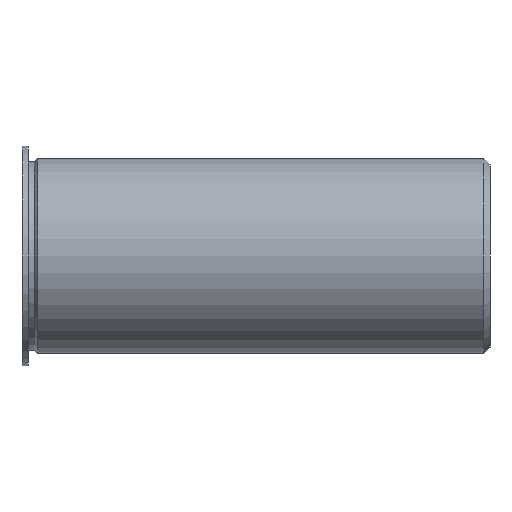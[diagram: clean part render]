
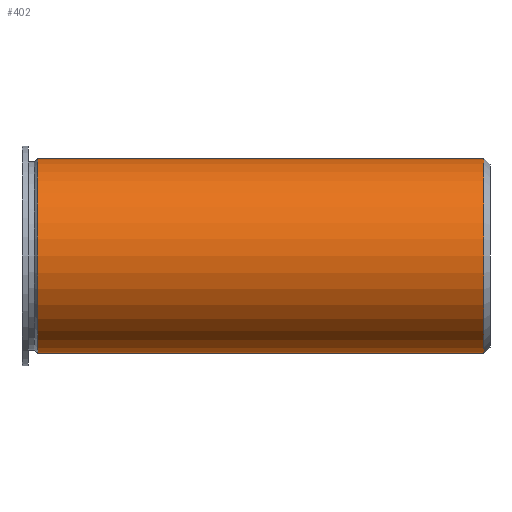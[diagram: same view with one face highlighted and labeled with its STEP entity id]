
A CAD part, front view. The second image highlights one B-rep face of the part: STEP entity #402.
In plain terms, the highlighted cylindrical face has radius 3.969 mm (diameter 7.938 mm), a partial arc.
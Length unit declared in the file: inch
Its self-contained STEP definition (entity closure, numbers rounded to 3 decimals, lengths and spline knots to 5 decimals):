
#24 = FACE_OUTER_BOUND ( 'NONE', #160, .T. ) ;
#41 = VECTOR ( 'NONE', #360, 39.37008 ) ;
#93 = LINE ( 'NONE', #427, #174 ) ;
#94 = VERTEX_POINT ( 'NONE', #170 ) ;
#111 = CIRCLE ( 'NONE', #539, 0.15625 ) ;
#115 = CARTESIAN_POINT ( 'NONE',  ( -1.78524, 3.72648, 0. ) ) ;
#120 = DIRECTION ( 'NONE',  ( 0., 0., 1. ) ) ;
#135 = CIRCLE ( 'NONE', #569, 0.15625 ) ;
#146 = LINE ( 'NONE', #412, #41 ) ;
#160 = EDGE_LOOP ( 'NONE', ( #224, #240, #185, #375 ) ) ;
#170 = CARTESIAN_POINT ( 'NONE',  ( -1.78524, 3.72648, -0.15625 ) ) ;
#174 = VECTOR ( 'NONE', #510, 39.37008 ) ;
#185 = ORIENTED_EDGE ( 'NONE', *, *, #298, .T. ) ;
#199 = CYLINDRICAL_SURFACE ( 'NONE', #506, 0.15625 ) ;
#215 = CARTESIAN_POINT ( 'NONE',  ( -2.50024, 3.72648, 0. ) ) ;
#217 = EDGE_CURVE ( 'NONE', #94, #554, #93, .T. ) ;
#224 = ORIENTED_EDGE ( 'NONE', *, *, #217, .F. ) ;
#240 = ORIENTED_EDGE ( 'NONE', *, *, #401, .T. ) ;
#262 = CARTESIAN_POINT ( 'NONE',  ( -2.50024, 3.72648, 0.15625 ) ) ;
#266 = DIRECTION ( 'NONE',  ( -1., 0., 0. ) ) ;
#298 = EDGE_CURVE ( 'NONE', #326, #538, #146, .T. ) ;
#326 = VERTEX_POINT ( 'NONE', #359 ) ;
#359 = CARTESIAN_POINT ( 'NONE',  ( -1.78524, 3.72648, 0.15625 ) ) ;
#360 = DIRECTION ( 'NONE',  ( -1., 0., 0. ) ) ;
#375 = ORIENTED_EDGE ( 'NONE', *, *, #384, .F. ) ;
#384 = EDGE_CURVE ( 'NONE', #554, #538, #135, .T. ) ;
#401 = EDGE_CURVE ( 'NONE', #94, #326, #111, .T. ) ;
#402 = ADVANCED_FACE ( 'NONE', ( #24 ), #199, .T. ) ;
#412 = CARTESIAN_POINT ( 'NONE',  ( -2.52524, 3.72648, 0.15625 ) ) ;
#427 = CARTESIAN_POINT ( 'NONE',  ( -2.52524, 3.72648, -0.15625 ) ) ;
#443 = CARTESIAN_POINT ( 'NONE',  ( -2.52524, 3.72648, 0. ) ) ;
#474 = DIRECTION ( 'NONE',  ( -1., 0., 0. ) ) ;
#495 = DIRECTION ( 'NONE',  ( 0., 0., 1. ) ) ;
#506 = AXIS2_PLACEMENT_3D ( 'NONE', #443, #523, #562 ) ;
#510 = DIRECTION ( 'NONE',  ( -1., 0., 0. ) ) ;
#523 = DIRECTION ( 'NONE',  ( -1., 0., 0. ) ) ;
#529 = CARTESIAN_POINT ( 'NONE',  ( -2.50024, 3.72648, -0.15625 ) ) ;
#538 = VERTEX_POINT ( 'NONE', #262 ) ;
#539 = AXIS2_PLACEMENT_3D ( 'NONE', #115, #266, #120 ) ;
#554 = VERTEX_POINT ( 'NONE', #529 ) ;
#562 = DIRECTION ( 'NONE',  ( 0., 0., 1. ) ) ;
#569 = AXIS2_PLACEMENT_3D ( 'NONE', #215, #474, #495 ) ;
